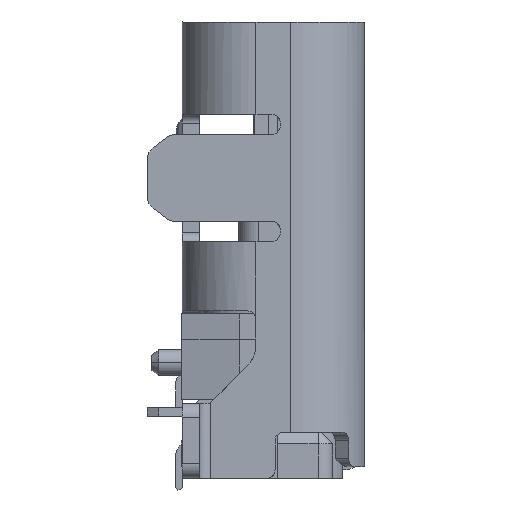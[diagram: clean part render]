
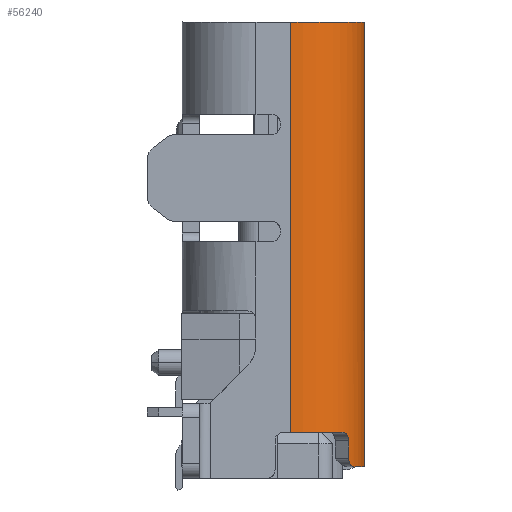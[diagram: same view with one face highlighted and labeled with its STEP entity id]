
A CAD part, left-side view. The second image highlights one B-rep face of the part: STEP entity #56240.
In plain terms, the highlighted cylindrical face has radius 1.28 mm (diameter 2.56 mm), a partial arc.
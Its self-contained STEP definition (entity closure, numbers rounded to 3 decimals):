
#1202 = ORIENTED_EDGE ( 'NONE', *, *, #47019, .F. ) ;
#3480 = CARTESIAN_POINT ( 'NONE',  ( -3.657, -1.515, -2.6 ) ) ;
#3857 = AXIS2_PLACEMENT_3D ( 'NONE', #25361, #15910, #67730 ) ;
#3913 = CARTESIAN_POINT ( 'NONE',  ( -3.19, -1.58, 5.1 ) ) ;
#4224 = ORIENTED_EDGE ( 'NONE', *, *, #39969, .T. ) ;
#7405 = EDGE_CURVE ( 'NONE', #65377, #25190, #44121, .T. ) ;
#9152 = CARTESIAN_POINT ( 'NONE',  ( -3.858, -1.392, -2.6 ) ) ;
#9324 = CYLINDRICAL_SURFACE ( 'NONE', #3857, 1.28 ) ;
#9432 = CARTESIAN_POINT ( 'NONE',  ( -3.19, -1.58, 5.1 ) ) ;
#9783 = CARTESIAN_POINT ( 'NONE',  ( -3.19, -1.58, 2.533 ) ) ;
#10584 = CARTESIAN_POINT ( 'NONE',  ( -4.308, -0.946, 5.1 ) ) ;
#11340 = ORIENTED_EDGE ( 'NONE', *, *, #47393, .T. ) ;
#11848 = B_SPLINE_CURVE_WITH_KNOTS ( 'NONE', 3,
 ( #45074, #61076, #24640, #24291, #66658, #39520 ),
 .UNSPECIFIED., .F., .F.,
 ( 4, 2, 4 ),
 ( 0., 0.5, 1. ),
 .UNSPECIFIED. ) ;
#12065 = B_SPLINE_CURVE_WITH_KNOTS ( 'NONE', 3,
 ( #24228, #50591, #20396, #10584, #41546, #41214, #63110, #57208, #20732, #16165 ),
 .UNSPECIFIED., .F., .F.,
 ( 4, 2, 2, 2, 4 ),
 ( 0., 0.25, 0.5, 0.75, 1. ),
 .UNSPECIFIED. ) ;
#13349 = ORIENTED_EDGE ( 'NONE', *, *, #22816, .F. ) ;
#14654 = CARTESIAN_POINT ( 'NONE',  ( -3.982, -1.306, -2.25 ) ) ;
#15910 = DIRECTION ( 'NONE',  ( 0., 0., 1. ) ) ;
#16165 = CARTESIAN_POINT ( 'NONE',  ( -3.19, -1.58, 5.1 ) ) ;
#17463 = ORIENTED_EDGE ( 'NONE', *, *, #18601, .F. ) ;
#18179 = CARTESIAN_POINT ( 'NONE',  ( -4.47, -0.3, 2.733 ) ) ;
#18315 = B_SPLINE_CURVE_WITH_KNOTS ( 'NONE', 3,
 ( #20186, #41331, #3480, #62882 ),
 .UNSPECIFIED., .F., .F.,
 ( 4, 4 ),
 ( 0., 1. ),
 .UNSPECIFIED. ) ;
#18601 = EDGE_CURVE ( 'NONE', #62259, #37553, #18315, .T. ) ;
#19319 = VERTEX_POINT ( 'NONE', #3913 ) ;
#19811 = CARTESIAN_POINT ( 'NONE',  ( -4.065, -1.235, -2. ) ) ;
#20155 = CARTESIAN_POINT ( 'NONE',  ( -4.094, -1.206, -2. ) ) ;
#20186 = CARTESIAN_POINT ( 'NONE',  ( -3.19, -1.58, -2.6 ) ) ;
#20396 = CARTESIAN_POINT ( 'NONE',  ( -4.437, -0.633, 5.1 ) ) ;
#20522 = B_SPLINE_CURVE_WITH_KNOTS ( 'NONE', 3,
 ( #9152, #34878, #62342, #52245, #41136, #30034 ),
 .UNSPECIFIED., .F., .F.,
 ( 4, 2, 4 ),
 ( 0., 0.5, 1. ),
 .UNSPECIFIED. ) ;
#20732 = CARTESIAN_POINT ( 'NONE',  ( -3.36, -1.58, 5.1 ) ) ;
#22816 = EDGE_CURVE ( 'NONE', #37553, #29625, #20522, .T. ) ;
#23294 = CARTESIAN_POINT ( 'NONE',  ( -4.47, -0.3, -2. ) ) ;
#24120 = CARTESIAN_POINT ( 'NONE',  ( -4.47, -0.3, 5.1 ) ) ;
#24228 = CARTESIAN_POINT ( 'NONE',  ( -4.47, -0.3, 5.1 ) ) ;
#24291 = CARTESIAN_POINT ( 'NONE',  ( -4.308, -0.945, -2. ) ) ;
#24640 = CARTESIAN_POINT ( 'NONE',  ( -4.437, -0.635, -2. ) ) ;
#25190 = VERTEX_POINT ( 'NONE', #36376 ) ;
#25361 = CARTESIAN_POINT ( 'NONE',  ( -3.19, -0.3, 5.1 ) ) ;
#25666 = VERTEX_POINT ( 'NONE', #54618 ) ;
#29625 = VERTEX_POINT ( 'NONE', #44984 ) ;
#30034 = CARTESIAN_POINT ( 'NONE',  ( -3.982, -1.306, -2.45 ) ) ;
#31769 = B_SPLINE_CURVE_WITH_KNOTS ( 'NONE', 3,
 ( #24120, #18179, #60550, #60208 ),
 .UNSPECIFIED., .F., .F.,
 ( 4, 4 ),
 ( 0., 1. ),
 .UNSPECIFIED. ) ;
#32838 = ORIENTED_EDGE ( 'NONE', *, *, #7405, .T. ) ;
#34114 = CARTESIAN_POINT ( 'NONE',  ( -3.19, -1.58, -2.6 ) ) ;
#34684 = ORIENTED_EDGE ( 'NONE', *, *, #44369, .T. ) ;
#34878 = CARTESIAN_POINT ( 'NONE',  ( -3.88, -1.378, -2.6 ) ) ;
#36098 = FACE_OUTER_BOUND ( 'NONE', #67590, .T. ) ;
#36252 = CARTESIAN_POINT ( 'NONE',  ( -3.858, -1.392, -2.6 ) ) ;
#36376 = CARTESIAN_POINT ( 'NONE',  ( -3.982, -1.306, -2.15 ) ) ;
#37553 = VERTEX_POINT ( 'NONE', #36252 ) ;
#39020 = EDGE_CURVE ( 'NONE', #25190, #29625, #53539, .T. ) ;
#39520 = CARTESIAN_POINT ( 'NONE',  ( -4.094, -1.206, -2. ) ) ;
#39969 = EDGE_CURVE ( 'NONE', #25666, #61464, #31769, .T. ) ;
#40961 = CARTESIAN_POINT ( 'NONE',  ( -3.994, -1.297, -2.073 ) ) ;
#41136 = CARTESIAN_POINT ( 'NONE',  ( -3.982, -1.306, -2.504 ) ) ;
#41214 = CARTESIAN_POINT ( 'NONE',  ( -3.975, -1.325, 5.1 ) ) ;
#41331 = CARTESIAN_POINT ( 'NONE',  ( -3.426, -1.58, -2.6 ) ) ;
#41546 = CARTESIAN_POINT ( 'NONE',  ( -4.215, -1.085, 5.1 ) ) ;
#43045 = ORIENTED_EDGE ( 'NONE', *, *, #39020, .T. ) ;
#44121 = B_SPLINE_CURVE_WITH_KNOTS ( 'NONE', 3,
 ( #20155, #19811, #62508, #40961, #56951, #56113 ),
 .UNSPECIFIED., .F., .F.,
 ( 4, 2, 4 ),
 ( 0., 0.5, 1. ),
 .UNSPECIFIED. ) ;
#44369 = EDGE_CURVE ( 'NONE', #61464, #65377, #11848, .T. ) ;
#44984 = CARTESIAN_POINT ( 'NONE',  ( -3.982, -1.306, -2.45 ) ) ;
#45074 = CARTESIAN_POINT ( 'NONE',  ( -4.47, -0.3, -2. ) ) ;
#47019 = EDGE_CURVE ( 'NONE', #25666, #19319, #12065, .T. ) ;
#47393 = EDGE_CURVE ( 'NONE', #62259, #19319, #48496, .T. ) ;
#48496 = B_SPLINE_CURVE_WITH_KNOTS ( 'NONE', 3,
 ( #68172, #52179, #9783, #9432 ),
 .UNSPECIFIED., .F., .F.,
 ( 4, 4 ),
 ( 0., 1. ),
 .UNSPECIFIED. ) ;
#50591 = CARTESIAN_POINT ( 'NONE',  ( -4.47, -0.47, 5.1 ) ) ;
#52179 = CARTESIAN_POINT ( 'NONE',  ( -3.19, -1.58, -0.033 ) ) ;
#52245 = CARTESIAN_POINT ( 'NONE',  ( -3.959, -1.323, -2.547 ) ) ;
#52489 = CARTESIAN_POINT ( 'NONE',  ( -3.982, -1.306, -2.45 ) ) ;
#53539 = B_SPLINE_CURVE_WITH_KNOTS ( 'NONE', 3,
 ( #67823, #14654, #68154, #52489 ),
 .UNSPECIFIED., .F., .F.,
 ( 4, 4 ),
 ( 0., 1. ),
 .UNSPECIFIED. ) ;
#54618 = CARTESIAN_POINT ( 'NONE',  ( -4.47, -0.3, 5.1 ) ) ;
#56113 = CARTESIAN_POINT ( 'NONE',  ( -3.982, -1.306, -2.15 ) ) ;
#56240 = ADVANCED_FACE ( 'NONE', ( #36098 ), #9324, .T. ) ;
#56951 = CARTESIAN_POINT ( 'NONE',  ( -3.982, -1.306, -2.108 ) ) ;
#57208 = CARTESIAN_POINT ( 'NONE',  ( -3.523, -1.548, 5.1 ) ) ;
#60208 = CARTESIAN_POINT ( 'NONE',  ( -4.47, -0.3, -2. ) ) ;
#60550 = CARTESIAN_POINT ( 'NONE',  ( -4.47, -0.3, 0.367 ) ) ;
#61076 = CARTESIAN_POINT ( 'NONE',  ( -4.47, -0.468, -2. ) ) ;
#61464 = VERTEX_POINT ( 'NONE', #23294 ) ;
#62259 = VERTEX_POINT ( 'NONE', #34114 ) ;
#62342 = CARTESIAN_POINT ( 'NONE',  ( -3.908, -1.36, -2.594 ) ) ;
#62508 = CARTESIAN_POINT ( 'NONE',  ( -4.038, -1.259, -2.015 ) ) ;
#62882 = CARTESIAN_POINT ( 'NONE',  ( -3.858, -1.392, -2.6 ) ) ;
#63110 = CARTESIAN_POINT ( 'NONE',  ( -3.836, -1.418, 5.1 ) ) ;
#65377 = VERTEX_POINT ( 'NONE', #67266 ) ;
#66658 = CARTESIAN_POINT ( 'NONE',  ( -4.213, -1.087, -2. ) ) ;
#67266 = CARTESIAN_POINT ( 'NONE',  ( -4.094, -1.206, -2. ) ) ;
#67590 = EDGE_LOOP ( 'NONE', ( #13349, #17463, #11340, #1202, #4224, #34684, #32838, #43045 ) ) ;
#67730 = DIRECTION ( 'NONE',  ( 1., 0., 0. ) ) ;
#67823 = CARTESIAN_POINT ( 'NONE',  ( -3.982, -1.306, -2.15 ) ) ;
#68154 = CARTESIAN_POINT ( 'NONE',  ( -3.982, -1.306, -2.35 ) ) ;
#68172 = CARTESIAN_POINT ( 'NONE',  ( -3.19, -1.58, -2.6 ) ) ;
